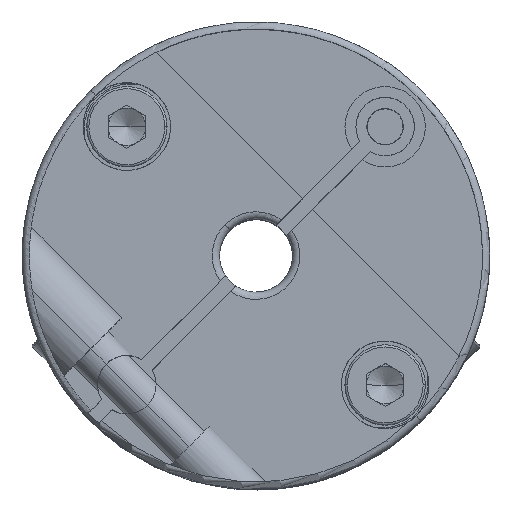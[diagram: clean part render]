
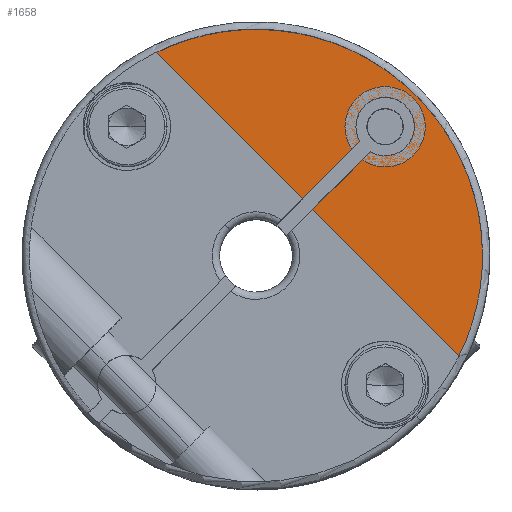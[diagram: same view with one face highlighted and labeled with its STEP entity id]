
A CAD part, top view. The second image highlights one B-rep face of the part: STEP entity #1658.
In plain terms, the highlighted planar face has unit normal (0, 0, 1) by its records, which use the part's own axes.
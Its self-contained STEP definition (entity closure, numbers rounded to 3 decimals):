
#171 = DIRECTION ( 'NONE',  ( 1., 0., 0. ) ) ;
#206 = ORIENTED_EDGE ( 'NONE', *, *, #1428, .T. ) ;
#222 = EDGE_CURVE ( 'NONE', #2320, #468, #3875, .T. ) ;
#240 = ORIENTED_EDGE ( 'NONE', *, *, #5255, .T. ) ;
#298 = DIRECTION ( 'NONE',  ( 0., 0., 1. ) ) ;
#334 = DIRECTION ( 'NONE',  ( 0., 0., 1. ) ) ;
#353 = AXIS2_PLACEMENT_3D ( 'NONE', #2427, #3385, #4444 ) ;
#468 = VERTEX_POINT ( 'NONE', #522 ) ;
#517 = CIRCLE ( 'NONE', #3589, 3. ) ;
#522 = CARTESIAN_POINT ( 'NONE',  ( -15.5, 0., 12.25 ) ) ;
#550 = CARTESIAN_POINT ( 'NONE',  ( -1.55, 12.5, 12.25 ) ) ;
#575 = AXIS2_PLACEMENT_3D ( 'NONE', #5528, #5498, #4476 ) ;
#776 = CARTESIAN_POINT ( 'NONE',  ( 2.5, 0., 12.25 ) ) ;
#789 = DIRECTION ( 'NONE',  ( 1., 0., 0. ) ) ;
#817 = DIRECTION ( 'NONE',  ( 0., 0., 1. ) ) ;
#1014 = AXIS2_PLACEMENT_3D ( 'NONE', #1846, #334, #6432 ) ;
#1101 = EDGE_CURVE ( 'NONE', #3717, #3183, #2483, .T. ) ;
#1125 = DIRECTION ( 'NONE',  ( 0., 0., -1. ) ) ;
#1156 = CARTESIAN_POINT ( 'NONE',  ( 0., 12.5, 12.25 ) ) ;
#1251 = FACE_BOUND ( 'NONE', #3632, .T. ) ;
#1305 = DIRECTION ( 'NONE',  ( 0., 0., 1. ) ) ;
#1316 = FACE_BOUND ( 'NONE', #6312, .T. ) ;
#1345 = CARTESIAN_POINT ( 'NONE',  ( 0., -12.5, 12.25 ) ) ;
#1372 = CIRCLE ( 'NONE', #3065, 1.55 ) ;
#1376 = DIRECTION ( 'NONE',  ( 0., 0., -1. ) ) ;
#1428 = EDGE_CURVE ( 'NONE', #3580, #5204, #1372, .T. ) ;
#1447 = CARTESIAN_POINT ( 'NONE',  ( 0., 0., 12.25 ) ) ;
#1479 = EDGE_CURVE ( 'NONE', #5204, #3580, #3495, .T. ) ;
#1524 = AXIS2_PLACEMENT_3D ( 'NONE', #3784, #4278, #6284 ) ;
#1658 = ADVANCED_FACE ( 'NONE', ( #5795, #1251, #1316, #5359 ), #5322, .T. ) ;
#1737 = CIRCLE ( 'NONE', #4284, 15.5 ) ;
#1846 = CARTESIAN_POINT ( 'NONE',  ( -12.5, 0., 12.25 ) ) ;
#1987 = EDGE_CURVE ( 'NONE', #468, #6198, #3487, .T. ) ;
#2011 = EDGE_CURVE ( 'NONE', #468, #2320, #517, .T. ) ;
#2153 = ORIENTED_EDGE ( 'NONE', *, *, #6511, .F. ) ;
#2210 = AXIS2_PLACEMENT_3D ( 'NONE', #3571, #3673, #5684 ) ;
#2254 = ORIENTED_EDGE ( 'NONE', *, *, #1479, .T. ) ;
#2320 = VERTEX_POINT ( 'NONE', #3330 ) ;
#2341 = CARTESIAN_POINT ( 'NONE',  ( -12.5, 0., 12.25 ) ) ;
#2427 = CARTESIAN_POINT ( 'NONE',  ( 12.5, 0., 12.25 ) ) ;
#2438 = CARTESIAN_POINT ( 'NONE',  ( 1.55, -12.5, 12.25 ) ) ;
#2483 = CIRCLE ( 'NONE', #1524, 2.5 ) ;
#2511 = DIRECTION ( 'NONE',  ( 0., 0., -1. ) ) ;
#2524 = CARTESIAN_POINT ( 'NONE',  ( 1.55, 12.5, 12.25 ) ) ;
#2642 = AXIS2_PLACEMENT_3D ( 'NONE', #2811, #817, #789 ) ;
#2726 = ORIENTED_EDGE ( 'NONE', *, *, #1987, .T. ) ;
#2794 = CIRCLE ( 'NONE', #3325, 1.55 ) ;
#2811 = CARTESIAN_POINT ( 'NONE',  ( 0., 0., 12.25 ) ) ;
#2871 = DIRECTION ( 'NONE',  ( 1., 0., 0. ) ) ;
#3038 = VERTEX_POINT ( 'NONE', #6025 ) ;
#3065 = AXIS2_PLACEMENT_3D ( 'NONE', #3359, #6478, #4946 ) ;
#3183 = VERTEX_POINT ( 'NONE', #3832 ) ;
#3325 = AXIS2_PLACEMENT_3D ( 'NONE', #1345, #1376, #4517 ) ;
#3330 = CARTESIAN_POINT ( 'NONE',  ( -9.5, 0., 12.25 ) ) ;
#3350 = CARTESIAN_POINT ( 'NONE',  ( -1.55, -12.5, 12.25 ) ) ;
#3359 = CARTESIAN_POINT ( 'NONE',  ( 0., 12.5, 12.25 ) ) ;
#3385 = DIRECTION ( 'NONE',  ( 0., 0., 1. ) ) ;
#3415 = AXIS2_PLACEMENT_3D ( 'NONE', #4697, #298, #171 ) ;
#3487 = CIRCLE ( 'NONE', #2210, 15.5 ) ;
#3495 = CIRCLE ( 'NONE', #4229, 1.55 ) ;
#3500 = EDGE_CURVE ( 'NONE', #3183, #3717, #6483, .T. ) ;
#3571 = CARTESIAN_POINT ( 'NONE',  ( 0., 0., 12.25 ) ) ;
#3580 = VERTEX_POINT ( 'NONE', #550 ) ;
#3589 = AXIS2_PLACEMENT_3D ( 'NONE', #2341, #1305, #2871 ) ;
#3627 = CIRCLE ( 'NONE', #3415, 3. ) ;
#3632 = EDGE_LOOP ( 'NONE', ( #2254, #206 ) ) ;
#3673 = DIRECTION ( 'NONE',  ( 0., 0., 1. ) ) ;
#3717 = VERTEX_POINT ( 'NONE', #776 ) ;
#3720 = EDGE_LOOP ( 'NONE', ( #2153, #6115, #3883, #6213, #2726, #4673 ) ) ;
#3784 = CARTESIAN_POINT ( 'NONE',  ( 0., 0., 12.25 ) ) ;
#3832 = CARTESIAN_POINT ( 'NONE',  ( -2.5, 0., 12.25 ) ) ;
#3847 = EDGE_LOOP ( 'NONE', ( #4994, #4991 ) ) ;
#3875 = CIRCLE ( 'NONE', #1014, 3. ) ;
#3883 = ORIENTED_EDGE ( 'NONE', *, *, #222, .F. ) ;
#3896 = VERTEX_POINT ( 'NONE', #2438 ) ;
#4016 = DIRECTION ( 'NONE',  ( 1., 0., 0. ) ) ;
#4224 = ORIENTED_EDGE ( 'NONE', *, *, #4747, .T. ) ;
#4229 = AXIS2_PLACEMENT_3D ( 'NONE', #1156, #1125, #4016 ) ;
#4258 = CIRCLE ( 'NONE', #353, 3. ) ;
#4278 = DIRECTION ( 'NONE',  ( 0., 0., -1. ) ) ;
#4284 = AXIS2_PLACEMENT_3D ( 'NONE', #5865, #5299, #4334 ) ;
#4334 = DIRECTION ( 'NONE',  ( 1., 0., 0. ) ) ;
#4430 = DIRECTION ( 'NONE',  ( -1., 0., 0. ) ) ;
#4444 = DIRECTION ( 'NONE',  ( 1., 0., 0. ) ) ;
#4476 = DIRECTION ( 'NONE',  ( 1., 0., 0. ) ) ;
#4491 = CARTESIAN_POINT ( 'NONE',  ( 15.5, 0., 12.25 ) ) ;
#4517 = DIRECTION ( 'NONE',  ( 1., 0., 0. ) ) ;
#4673 = ORIENTED_EDGE ( 'NONE', *, *, #6013, .F. ) ;
#4697 = CARTESIAN_POINT ( 'NONE',  ( 12.5, 0., 12.25 ) ) ;
#4747 = EDGE_CURVE ( 'NONE', #3896, #6341, #2794, .T. ) ;
#4946 = DIRECTION ( 'NONE',  ( 1., 0., 0. ) ) ;
#4991 = ORIENTED_EDGE ( 'NONE', *, *, #1101, .T. ) ;
#4994 = ORIENTED_EDGE ( 'NONE', *, *, #3500, .T. ) ;
#5130 = AXIS2_PLACEMENT_3D ( 'NONE', #1447, #2511, #4430 ) ;
#5204 = VERTEX_POINT ( 'NONE', #2524 ) ;
#5255 = EDGE_CURVE ( 'NONE', #6341, #3896, #5441, .T. ) ;
#5299 = DIRECTION ( 'NONE',  ( 0., 0., 1. ) ) ;
#5322 = PLANE ( 'NONE',  #2642 ) ;
#5359 = FACE_OUTER_BOUND ( 'NONE', #3720, .T. ) ;
#5441 = CIRCLE ( 'NONE', #575, 1.55 ) ;
#5498 = DIRECTION ( 'NONE',  ( 0., 0., -1. ) ) ;
#5520 = EDGE_CURVE ( 'NONE', #6198, #468, #1737, .T. ) ;
#5528 = CARTESIAN_POINT ( 'NONE',  ( 0., -12.5, 12.25 ) ) ;
#5684 = DIRECTION ( 'NONE',  ( 1., 0., 0. ) ) ;
#5795 = FACE_BOUND ( 'NONE', #3847, .T. ) ;
#5865 = CARTESIAN_POINT ( 'NONE',  ( 0., 0., 12.25 ) ) ;
#6013 = EDGE_CURVE ( 'NONE', #3038, #6198, #3627, .T. ) ;
#6025 = CARTESIAN_POINT ( 'NONE',  ( 9.5, 0., 12.25 ) ) ;
#6115 = ORIENTED_EDGE ( 'NONE', *, *, #5520, .T. ) ;
#6198 = VERTEX_POINT ( 'NONE', #4491 ) ;
#6213 = ORIENTED_EDGE ( 'NONE', *, *, #2011, .F. ) ;
#6284 = DIRECTION ( 'NONE',  ( -1., 0., 0. ) ) ;
#6312 = EDGE_LOOP ( 'NONE', ( #4224, #240 ) ) ;
#6341 = VERTEX_POINT ( 'NONE', #3350 ) ;
#6432 = DIRECTION ( 'NONE',  ( 1., 0., 0. ) ) ;
#6478 = DIRECTION ( 'NONE',  ( 0., 0., -1. ) ) ;
#6483 = CIRCLE ( 'NONE', #5130, 2.5 ) ;
#6511 = EDGE_CURVE ( 'NONE', #6198, #3038, #4258, .T. ) ;
